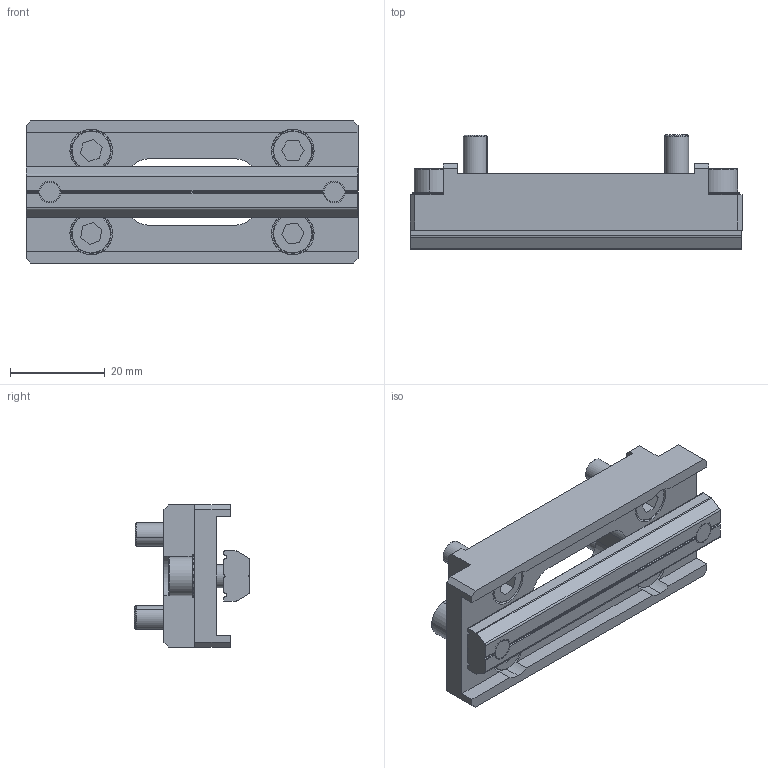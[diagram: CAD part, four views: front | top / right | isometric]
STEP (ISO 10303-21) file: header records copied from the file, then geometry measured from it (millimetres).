
FILE_DESCRIPTION (( 'STEP AP214' ), '1' );
FILE_NAME ('SMBD-5070T.STEP', '2022-12-09T02:53:26', ( '' ), ( '' ), 'SwSTEP 2.0', 'SolidWorks 2018', '' );
FILE_SCHEMA (( 'AUTOMOTIVE_DESIGN' ));
Length unit declared in the file: millimetre
Products named in the file (5): PTS-M5; SMBD-5070; SMBD-5070T; PTN-M5P60; PTC-M5L12
Assembly tree (14 placements, depth 2):
  SMBD-5070T
    SMBD-5070
    PTN-M5P60
    PTC-M5L12  x6
    PTS-M5  x6
Bounding box: 70 x 24.25 x 30 mm (x, y, z)
Volume: 19168 mm3; surface area: 13598.4 mm2
Topology: 14 solids, 14 shells, 1231 faces, 3585 edges, 2378 vertices
Faces by surface type: plane 1088, cylinder 107, cone 36
Entity records: 10799 total; most frequent: CARTESIAN_POINT 1995, ORIENTED_EDGE 1830, DIRECTION 1807, EDGE_CURVE 915, AXIS2_PLACEMENT_3D 612, VERTEX_POINT 608, LINE 583, VECTOR 583
